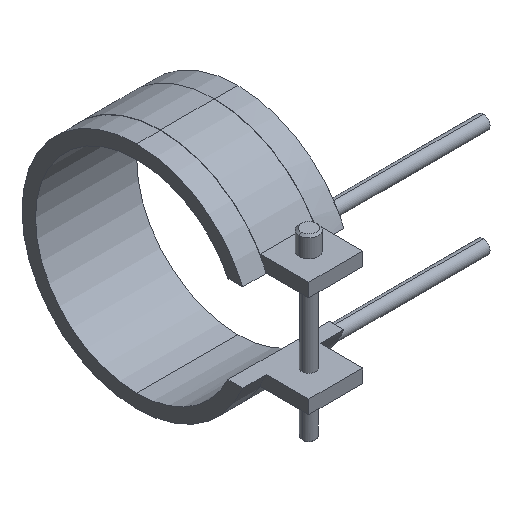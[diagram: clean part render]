
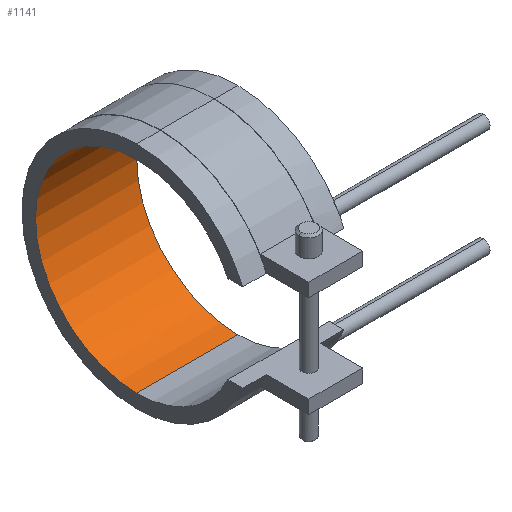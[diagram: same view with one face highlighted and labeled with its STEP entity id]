
A CAD part, isometric view. The second image highlights one B-rep face of the part: STEP entity #1141.
In plain terms, the highlighted cylindrical face has radius 30 mm (diameter 60 mm), a partial arc.
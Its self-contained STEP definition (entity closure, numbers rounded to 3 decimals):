
#822=CARTESIAN_POINT('Vertex',(-15.,0.,-30.)) ;
#829=CARTESIAN_POINT('Vertex',(15.,0.,-30.)) ;
#832=CARTESIAN_POINT('Line Origine',(15.,0.,-30.)) ;
#850=CARTESIAN_POINT('Axis2P3D Location',(-15.,0.,0.)) ;
#854=CARTESIAN_POINT('Vertex',(-15.,0.,30.)) ;
#911=CARTESIAN_POINT('Vertex',(15.,0.,30.)) ;
#921=CARTESIAN_POINT('Line Origine',(15.,0.,30.)) ;
#1012=CARTESIAN_POINT('Axis2P3D Location',(15.,0.,0.)) ;
#1130=CARTESIAN_POINT('Axis2P3D Location',(15.,0.,0.)) ;
#833=DIRECTION('Vector Direction',(1.,0.,0.)) ;
#851=DIRECTION('Axis2P3D Direction',(1.,0.,0.)) ;
#922=DIRECTION('Vector Direction',(1.,0.,0.)) ;
#1013=DIRECTION('Axis2P3D Direction',(1.,0.,0.)) ;
#1131=DIRECTION('Axis2P3D Direction',(1.,0.,-0.)) ;
#1132=DIRECTION('Axis2P3D XDirection',(0.,0.,-1.)) ;
#852=AXIS2_PLACEMENT_3D('Circle Axis2P3D',#850,#851,$) ;
#1014=AXIS2_PLACEMENT_3D('Circle Axis2P3D',#1012,#1013,$) ;
#1133=AXIS2_PLACEMENT_3D('Cylinder Axis2P3D',#1130,#1131,#1132) ;
#1136=ORIENTED_EDGE('',*,*,#1016,.T.) ;
#1137=ORIENTED_EDGE('',*,*,#925,.T.) ;
#1138=ORIENTED_EDGE('',*,*,#856,.F.) ;
#1139=ORIENTED_EDGE('',*,*,#836,.T.) ;
#834=VECTOR('Line Direction',#833,1.) ;
#923=VECTOR('Line Direction',#922,1.) ;
#1141=ADVANCED_FACE('14060030',(#1140),#1134,.F.) ;
#853=CIRCLE('generated circle',#852,30.) ;
#1015=CIRCLE('generated circle',#1014,30.) ;
#1134=CYLINDRICAL_SURFACE('generated cylinder',#1133,30.) ;
#836=EDGE_CURVE('',#823,#830,#835,.T.) ;
#856=EDGE_CURVE('',#823,#855,#853,.T.) ;
#925=EDGE_CURVE('',#912,#855,#924,.F.) ;
#1016=EDGE_CURVE('',#830,#912,#1015,.T.) ;
#1135=EDGE_LOOP('',(#1136,#1137,#1138,#1139)) ;
#1140=FACE_OUTER_BOUND('',#1135,.T.) ;
#835=LINE('Line',#832,#834) ;
#924=LINE('Line',#921,#923) ;
#823=VERTEX_POINT('',#822) ;
#830=VERTEX_POINT('',#829) ;
#855=VERTEX_POINT('',#854) ;
#912=VERTEX_POINT('',#911) ;
